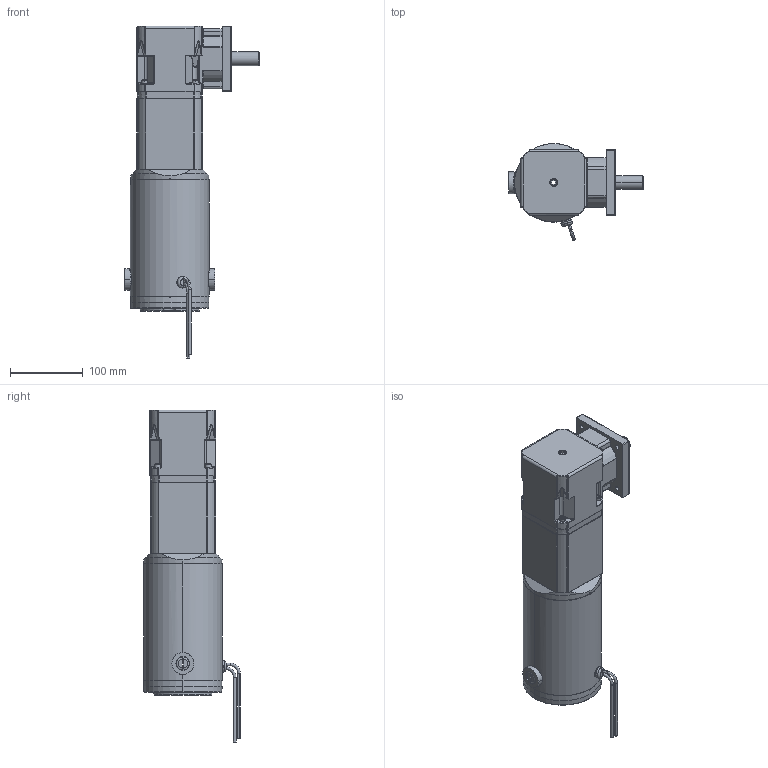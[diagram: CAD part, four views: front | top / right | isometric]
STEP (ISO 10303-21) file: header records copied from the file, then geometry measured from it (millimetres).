
FILE_DESCRIPTION (( 'STEP AP203' ), '1' );
FILE_NAME ('OUTLINE PM10816-RP7300_3S.STEP', '2006-08-08T20:57:32', ( 'Eng-KVV2' ), ( 'Groschopp' ), 'SwSTEP 2.0', 'SolidWorks 2006104', '' );
FILE_SCHEMA (( 'CONFIG_CONTROL_DESIGN' ));
Length unit declared in the file: inch
Products named in the file (1): OUTLINE PM10816-RP7300_3S
Bounding box: 184.84 x 133.17 x 456.76 mm (x, y, z)
Surface area: 197432.3 mm2 (no closed solid volume)
Topology: 0 solids, 36 shells, 846 faces, 2565 edges, 1682 vertices
Faces by surface type: cylinder 286, plane 226, torus 119, bspline 98, cone 81, sphere 36
Entity records: 54880 total; most frequent: CARTESIAN_POINT 32478, DIRECTION 4933, ORIENTED_EDGE 4226, EDGE_CURVE 2537, AXIS2_PLACEMENT_3D 1975, VERTEX_POINT 1682, CIRCLE 1226, VECTOR 983
